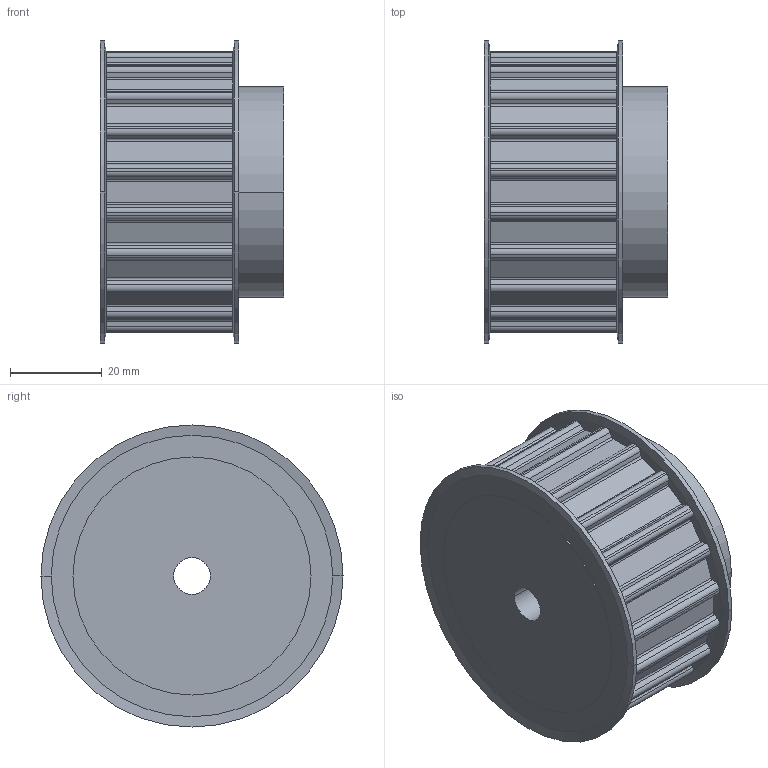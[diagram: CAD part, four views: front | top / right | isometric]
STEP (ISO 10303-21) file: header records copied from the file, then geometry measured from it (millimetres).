
FILE_DESCRIPTION( ( '' ), '1' );
FILE_NAME( 'C:/Users/Stangenbergd/Documents/CAD_Step/1/16832000.stp', '2021-10-19T09:45:27', ( '' ), ( '' ), ' ', ' ', ' ' );
FILE_SCHEMA( ( 'CONFIG_CONTROL_DESIGN' ) );
Length unit declared in the file: millimetre
Products named in the file (1): 1
Bounding box: 40.17 x 66 x 66 mm (x, y, z)
Volume: 96997.6 mm3; surface area: 17653.1 mm2
Topology: 1 solids, 1 shells, 265 faces, 692 edges, 432 vertices
Faces by surface type: plane 145, cylinder 112, cone 8
Entity records: 8282 total; most frequent: DIRECTION 1616, CARTESIAN_POINT 1390, ORIENTED_EDGE 1384, EDGE_CURVE 692, AXIS2_PLACEMENT_3D 658, VERTEX_POINT 432, CIRCLE 392, LINE 300
